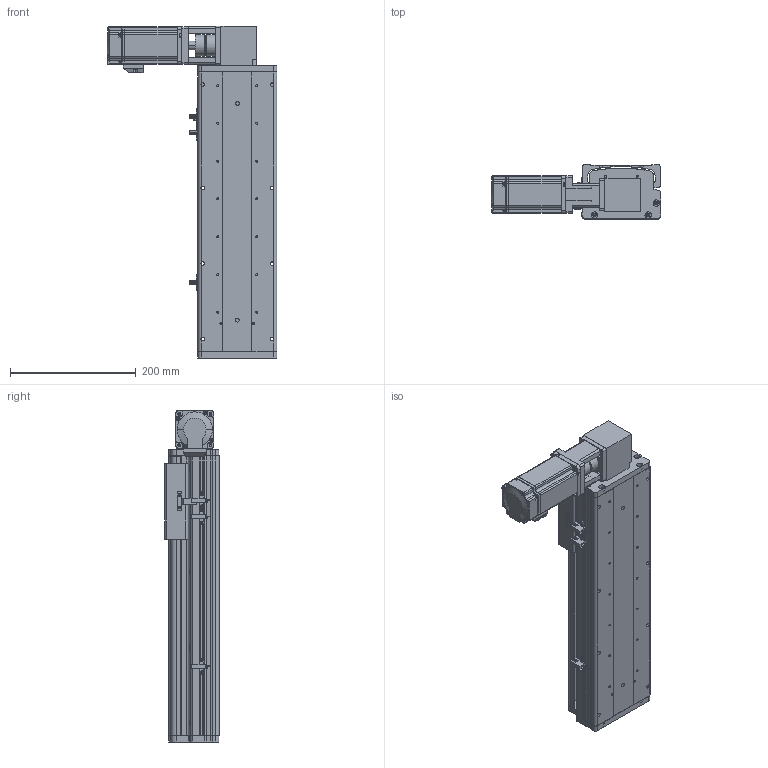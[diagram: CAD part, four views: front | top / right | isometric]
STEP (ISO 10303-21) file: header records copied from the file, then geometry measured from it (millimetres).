
FILE_DESCRIPTION (( 'STEP AP214' ), '1' );
FILE_NAME ('KSD125B-S250-MRT-CM.STEP', '2017-08-07T07:14:54', ( '微软用户' ), ( '微软中国' ), 'SwSTEP 2.0', 'SolidWorks 2014', '' );
FILE_SCHEMA (( 'AUTOMOTIVE_DESIGN' ));
Length unit declared in the file: millimetre
Products named in the file (16): 125模组同步带-尾端板1; KSD125模组同步带-滑动座1; KSD125B-S250-MRT-CM; KSD125模组250行程同步带-防尘盖; 125模组250行程同步带-底板; MHMD042G1CA_2_03; KSD125模组同步带-防撞垫2; CS-34X32-10X14; 100遵鎮湛假蚾啣1 ; 覜茼え68遵圉猾敕; U倰嫖萇假蚾璃; U倰嫖萇EEㄜSX672; KSD125模组同步带-防撞垫1; 100宽安装板同步带带电机座400W,86; 100宽马达安装板同步带右; 前端板-125宽模组同步带
Assembly tree (19 placements, depth 2):
  KSD125B-S250-MRT-CM
    KSD125模组同步带-滑动座1
    125模组同步带-尾端板1
    前端板-125宽模组同步带
    100宽马达安装板同步带右
    100宽安装板同步带带电机座400W,86
    KSD125模组同步带-防撞垫1
    U倰嫖萇EEㄜSX672  x3
    U倰嫖萇假蚾璃  x3
    覜茼え68遵圉猾敕
    100遵鎮湛假蚾啣1 
    CS-34X32-10X14
    KSD125模组同步带-防撞垫2
    MHMD042G1CA_2_03
    125模组250行程同步带-底板
    KSD125模组250行程同步带-防尘盖
Bounding box: 269 x 86 x 527 mm (x, y, z)
Volume: 1908462.3 mm3; surface area: 656530.1 mm2
Topology: 18 solids, 21 shells, 1606 faces, 4594 edges, 3028 vertices
Faces by surface type: cylinder 809, plane 694, cone 81, bspline 22
Entity records: 55926 total; most frequent: CARTESIAN_POINT 11372, DIRECTION 8165, ORIENTED_EDGE 7708, EDGE_CURVE 3932, AXIS2_PLACEMENT_3D 3009, VERTEX_POINT 2620, LINE 2147, VECTOR 2147
